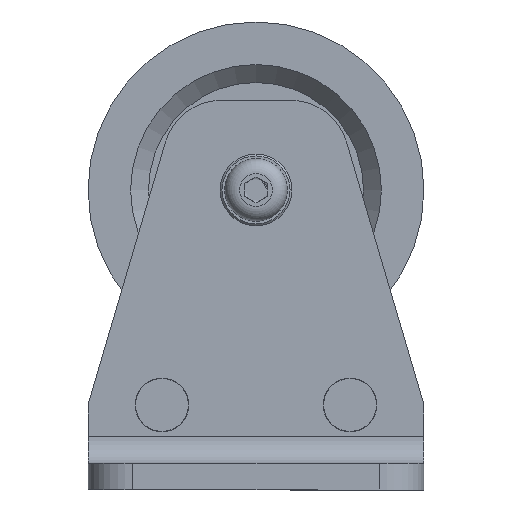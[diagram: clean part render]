
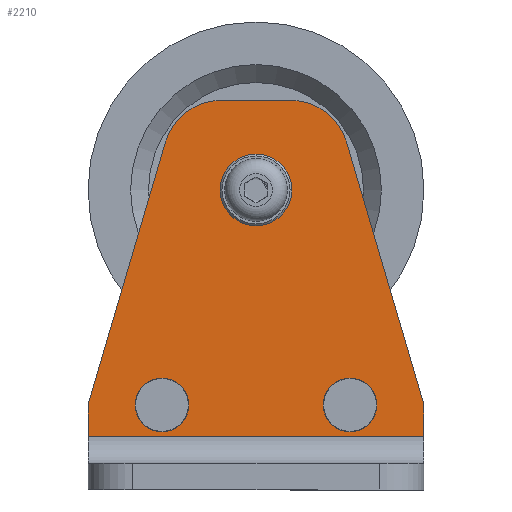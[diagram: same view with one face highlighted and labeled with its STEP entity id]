
A CAD part, front view. The second image highlights one B-rep face of the part: STEP entity #2210.
In plain terms, the highlighted planar face has unit normal (0, -1, 0) as drawn and (0, 0, 1) by its records, which use the part's own axes.
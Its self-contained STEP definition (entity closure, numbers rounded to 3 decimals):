
#201=FACE_BOUND('',#459,.T.);
#202=FACE_BOUND('',#460,.T.);
#203=FACE_BOUND('',#461,.T.);
#259=PLANE('',#2651);
#325=FACE_OUTER_BOUND('',#458,.T.);
#458=EDGE_LOOP('',(#1664,#1665,#1666,#1667,#1668,#1669,#1670,#1671));
#459=EDGE_LOOP('',(#1672));
#460=EDGE_LOOP('',(#1673));
#461=EDGE_LOOP('',(#1674));
#628=LINE('',#3811,#730);
#631=LINE('',#3817,#733);
#639=LINE('',#3851,#741);
#643=LINE('',#3860,#745);
#646=LINE('',#3867,#748);
#647=LINE('',#3869,#749);
#730=VECTOR('',#3039,10.);
#733=VECTOR('',#3044,10.);
#741=VECTOR('',#3078,10.);
#745=VECTOR('',#3088,10.);
#748=VECTOR('',#3097,10.);
#749=VECTOR('',#3100,10.);
#820=CIRCLE('',#2638,6.);
#821=CIRCLE('',#2640,6.);
#822=CIRCLE('',#2642,4.6);
#823=CIRCLE('',#2645,13.);
#824=CIRCLE('',#2648,13.);
#1007=VERTEX_POINT('',#3802);
#1008=VERTEX_POINT('',#3806);
#1010=VERTEX_POINT('',#3815);
#1019=VERTEX_POINT('',#3837);
#1020=VERTEX_POINT('',#3841);
#1021=VERTEX_POINT('',#3845);
#1022=VERTEX_POINT('',#3849);
#1023=VERTEX_POINT('',#3850);
#1024=VERTEX_POINT('',#3855);
#1025=VERTEX_POINT('',#3859);
#1026=VERTEX_POINT('',#3863);
#1255=EDGE_CURVE('',#1007,#1008,#628,.T.);
#1258=EDGE_CURVE('',#1010,#1008,#631,.T.);
#1269=EDGE_CURVE('',#1019,#1019,#820,.T.);
#1271=EDGE_CURVE('',#1020,#1020,#821,.T.);
#1273=EDGE_CURVE('',#1021,#1021,#822,.T.);
#1274=EDGE_CURVE('',#1022,#1023,#639,.T.);
#1277=EDGE_CURVE('',#1023,#1024,#823,.T.);
#1279=EDGE_CURVE('',#1024,#1025,#643,.T.);
#1281=EDGE_CURVE('',#1025,#1026,#824,.T.);
#1283=EDGE_CURVE('',#1026,#1010,#646,.T.);
#1284=EDGE_CURVE('',#1007,#1022,#647,.T.);
#1664=ORIENTED_EDGE('',*,*,#1255,.T.);
#1665=ORIENTED_EDGE('',*,*,#1258,.F.);
#1666=ORIENTED_EDGE('',*,*,#1283,.F.);
#1667=ORIENTED_EDGE('',*,*,#1281,.F.);
#1668=ORIENTED_EDGE('',*,*,#1279,.F.);
#1669=ORIENTED_EDGE('',*,*,#1277,.F.);
#1670=ORIENTED_EDGE('',*,*,#1274,.F.);
#1671=ORIENTED_EDGE('',*,*,#1284,.F.);
#1672=ORIENTED_EDGE('',*,*,#1269,.T.);
#1673=ORIENTED_EDGE('',*,*,#1271,.T.);
#1674=ORIENTED_EDGE('',*,*,#1273,.T.);
#2210=ADVANCED_FACE('',(#325,#201,#202,#203),#259,.T.);
#2638=AXIS2_PLACEMENT_3D('',#3839,#3064,#3065);
#2640=AXIS2_PLACEMENT_3D('',#3843,#3069,#3070);
#2642=AXIS2_PLACEMENT_3D('',#3847,#3074,#3075);
#2645=AXIS2_PLACEMENT_3D('',#3856,#3083,#3084);
#2648=AXIS2_PLACEMENT_3D('',#3864,#3092,#3093);
#2651=AXIS2_PLACEMENT_3D('',#3870,#3101,#3102);
#3039=DIRECTION('',(1.,0.,0.));
#3044=DIRECTION('',(0.,-1.,0.));
#3064=DIRECTION('center_axis',(0.,0.,-1.));
#3065=DIRECTION('ref_axis',(-1.,0.,0.));
#3069=DIRECTION('center_axis',(0.,0.,-1.));
#3070=DIRECTION('ref_axis',(-1.,0.,0.));
#3074=DIRECTION('center_axis',(0.,0.,-1.));
#3075=DIRECTION('ref_axis',(-1.,0.,0.));
#3078=DIRECTION('',(0.282,0.959,0.));
#3083=DIRECTION('center_axis',(0.,0.,-1.));
#3084=DIRECTION('ref_axis',(0.,1.,0.));
#3088=DIRECTION('',(1.,0.,0.));
#3092=DIRECTION('center_axis',(0.,0.,-1.));
#3093=DIRECTION('ref_axis',(0.959,0.282,0.));
#3097=DIRECTION('',(0.282,-0.959,0.));
#3100=DIRECTION('',(0.,1.,0.));
#3101=DIRECTION('center_axis',(0.,0.,1.));
#3102=DIRECTION('ref_axis',(1.,0.,0.));
#3802=CARTESIAN_POINT('',(-37.5,12.,6.));
#3806=CARTESIAN_POINT('',(37.5,12.,6.));
#3811=CARTESIAN_POINT('',(18.75,12.,6.));
#3815=CARTESIAN_POINT('',(37.5,19.,6.));
#3817=CARTESIAN_POINT('',(37.5,0.,6.));
#3837=CARTESIAN_POINT('',(27.,19.,6.));
#3839=CARTESIAN_POINT('Origin',(21.,19.,6.));
#3841=CARTESIAN_POINT('',(-15.,19.,6.));
#3843=CARTESIAN_POINT('Origin',(-21.,19.,6.));
#3845=CARTESIAN_POINT('',(4.6,67.,6.));
#3847=CARTESIAN_POINT('Origin',(0.,67.,6.));
#3849=CARTESIAN_POINT('',(-37.5,19.,6.));
#3850=CARTESIAN_POINT('',(-20.245,77.668,6.));
#3851=CARTESIAN_POINT('',(-20.245,77.668,6.));
#3855=CARTESIAN_POINT('',(-7.773,87.,6.));
#3856=CARTESIAN_POINT('Origin',(-7.773,74.,6.));
#3859=CARTESIAN_POINT('',(7.773,87.,6.));
#3860=CARTESIAN_POINT('',(7.773,87.,6.));
#3863=CARTESIAN_POINT('',(20.245,77.668,6.));
#3864=CARTESIAN_POINT('Origin',(7.773,74.,6.));
#3867=CARTESIAN_POINT('',(37.5,19.,6.));
#3869=CARTESIAN_POINT('',(-37.5,19.,6.));
#3870=CARTESIAN_POINT('Origin',(0.,36.645,6.));
